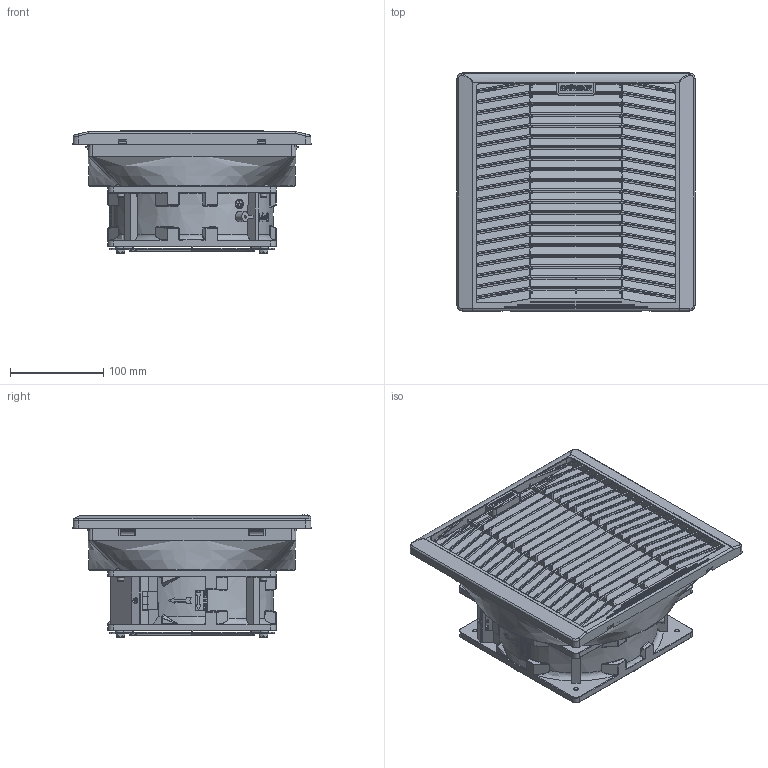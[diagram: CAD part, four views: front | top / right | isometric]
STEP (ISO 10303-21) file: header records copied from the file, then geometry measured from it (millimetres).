
FILE_DESCRIPTION(/* description */ (''),/* implementation_level */ '2;1');
FILE_NAME(/* name */ 'D:\Котлубовский\Впускные решётки\KIPVENT-400.11.230\KIPVENT-400.11.230 Решётка в сборе.stp',/* time_stamp */ '2022-02-28T20:20:53+07:00',/* author */ ('YURY_'),/* organization */ (''),/* preprocessor_version */ 'ST-DEVELOPER v17.2',/* originating_system */ 'Autodesk Inventor 2019',/* authorisation */ '');
FILE_SCHEMA (('AUTOMOTIVE_DESIGN { 1 0 10303 214 3 1 1 }'));
Products named in the file (21): KIPVENT-400.11.230 Решётка 
в сборе; KIPVENT-400.10.000 Впускная решётка 
в сборе; KIPVENT-400.10.000 Корпус; KIPVENT-400.20.000 Решётка; KIPVENT-400.20.000 Фильтр; Вентилятор в сборе 
VENT-18065.220VAC.7MSHB; Корпус VENT-18065.220VAC.7M
SHB; Короб штекера 
VENT-18065.220VAC.7MSHB; Штекер в сборе 
 VENT-18065.220VAC.7MSHB; Планка штекера 
VENT-18065.220VAC.7MSHB; Жало штекера; Наклейка VENT-18065.2
20VAC.7MSHB; Винт 2.M3-6gx16 ГОСТ 
17475-80; Провод; Защелка провода 
VENT-18065.220VAC.7MSHB; Крыльчатка VENT
-18065.220VAC.7MSHB; VENT-180; Шайба 5 ГОСТ 
11371-78; Болт M5-6gx10 ГОСТ 
7805-70; Винт M4-6gx16 ГОСТ 
11738-84; Шайба 4 ГОСТ 
11371-78
Assembly tree (33 placements, depth 4):
  KIPVENT-400.11.230 Решётка 
в сборе
    KIPVENT-400.10.000 Впускная решётка 
в сборе
      KIPVENT-400.10.000 Корпус
      KIPVENT-400.20.000 Решётка
      KIPVENT-400.20.000 Фильтр
    Вентилятор в сборе 
VENT-18065.220VAC.7MSHB
      Корпус VENT-18065.220VAC.7M
SHB
      Короб штекера 
VENT-18065.220VAC.7MSHB
      Штекер в сборе 
 VENT-18065.220VAC.7MSHB
        Планка штекера 
VENT-18065.220VAC.7MSHB
        Жало штекера  x2
      Наклейка VENT-18065.2
20VAC.7MSHB
      Винт 2.M3-6gx16 ГОСТ 
17475-80
      Провод
      Защелка провода 
VENT-18065.220VAC.7MSHB
      Крыльчатка VENT
-18065.220VAC.7MSHB
    VENT-180
    Шайба 5 ГОСТ 
11371-78  x4
    Болт M5-6gx10 ГОСТ 
7805-70  x4
    Винт M4-6gx16 ГОСТ 
11738-84  x4
    Шайба 4 ГОСТ 
11371-78  x4
Bounding box: 255 x 255 x 130.7 mm (x, y, z)
Volume: 1407394.3 mm3; surface area: 800571 mm2
Topology: 34 solids, 34 shells, 10092 faces, 26340 edges, 16813 vertices
Faces by surface type: plane 4298, bspline 3543, cylinder 1097, cone 530, torus 329, sphere 295
Full cylindrical faces by diameter (mm): 0.01 x1, 1 x2, 2 x24, 2.5 x9, 3 x1, 3.2 x13, 3.399 x1, 4 x4, 4.1 x8, 4.3 x4, 4.8 x12, 5 x4, 5.3 x4, 5.6 x1, 5.85 x4, 5.9 x8, 7 x5, 7.5 x4, 7.8 x1, 9 x5, 10 x7, 68 x1, 87 x1, 93 x2, 97 x2, 175.4 x1
Entity records: 364538 total; most frequent: CARTESIAN_POINT 141676, ORIENTED_EDGE 51790, DIRECTION 35579, EDGE_CURVE 25895, VERTEX_POINT 16585, LINE 13269, VECTOR 13269, AXIS2_PLACEMENT_3D 11155
